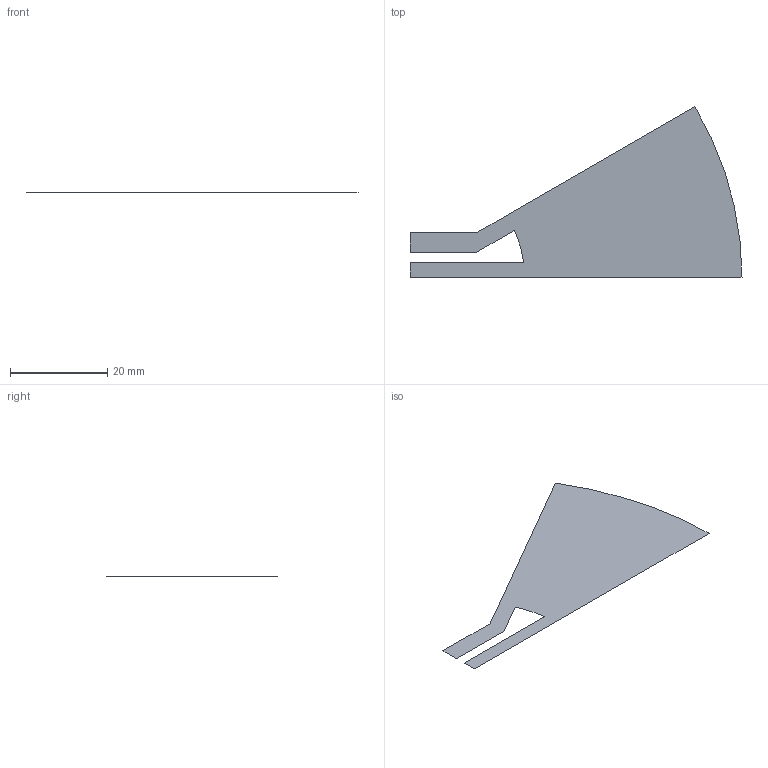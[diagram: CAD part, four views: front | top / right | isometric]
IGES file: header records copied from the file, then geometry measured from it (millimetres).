
Start section: DesignModeler IGES Output Version 5.3
Global section: file name: NoName; native system:  By UGS Corp.; preprocessor: XPlus GENERIC/IGES 3.0; author: sasilves; organization:  ; date: 20120229.133646; units: metre
Bounding box: 68.41 x 35.12 x 0 mm (x, y, z)
Surface area: 1280.6 mm2 (no closed solid volume)
Topology: 0 solids, 0 shells, 1 faces, 12 edges, 12 vertices
Faces by surface type: extrusion 1
